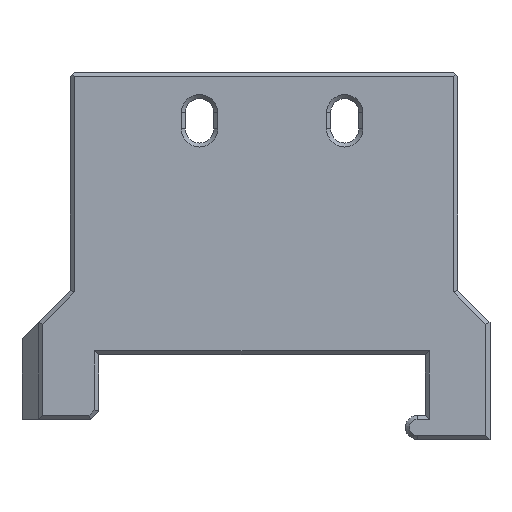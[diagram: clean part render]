
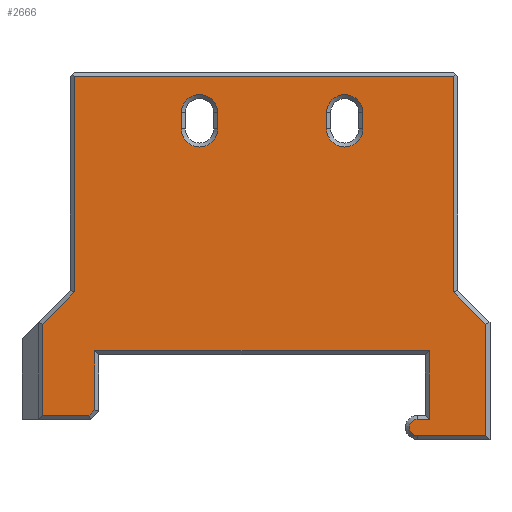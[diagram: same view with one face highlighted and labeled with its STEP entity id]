
A CAD part, front view. The second image highlights one B-rep face of the part: STEP entity #2666.
In plain terms, the highlighted planar face has unit normal (0, -1, 0).
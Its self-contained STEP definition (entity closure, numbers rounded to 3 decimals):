
#187=CARTESIAN_POINT('Vertex',(-23.5,-15.,34.5)) ;
#190=CARTESIAN_POINT('Line Origine',(0.,-15.,34.5)) ;
#194=CARTESIAN_POINT('Vertex',(23.5,-15.,34.5)) ;
#215=CARTESIAN_POINT('Line Origine',(23.5,-15.,12.25)) ;
#219=CARTESIAN_POINT('Vertex',(23.5,-15.,7.793)) ;
#252=CARTESIAN_POINT('Line Origine',(13.196,-15.,18.096)) ;
#256=CARTESIAN_POINT('Vertex',(27.5,-15.,3.793)) ;
#282=CARTESIAN_POINT('Line Origine',(27.5,-15.,12.25)) ;
#286=CARTESIAN_POINT('Vertex',(27.5,-15.,-10.)) ;
#312=CARTESIAN_POINT('Line Origine',(0.,-15.,-10.)) ;
#316=CARTESIAN_POINT('Vertex',(19.,-15.,-10.)) ;
#347=CARTESIAN_POINT('Vertex',(19.,-15.,-8.)) ;
#357=CARTESIAN_POINT('Axis2P3D Location',(19.,-15.,-9.)) ;
#381=CARTESIAN_POINT('Line Origine',(0.,-15.,-8.)) ;
#385=CARTESIAN_POINT('Vertex',(20.5,-15.,-8.)) ;
#404=CARTESIAN_POINT('Line Origine',(20.5,-15.,12.25)) ;
#408=CARTESIAN_POINT('Vertex',(20.5,-15.,0.5)) ;
#434=CARTESIAN_POINT('Line Origine',(0.,-15.,0.5)) ;
#438=CARTESIAN_POINT('Vertex',(-21.,-15.,0.5)) ;
#464=CARTESIAN_POINT('Line Origine',(-21.,-15.,12.25)) ;
#468=CARTESIAN_POINT('Vertex',(-21.,-15.,-6.793)) ;
#2119=CARTESIAN_POINT('Vertex',(7.75,-15.,28.)) ;
#2122=CARTESIAN_POINT('Axis2P3D Location',(10.,-15.,28.)) ;
#2126=CARTESIAN_POINT('Vertex',(12.25,-15.,28.)) ;
#2150=CARTESIAN_POINT('Vertex',(7.75,-15.,30.)) ;
#2153=CARTESIAN_POINT('Line Origine',(7.75,-15.,12.25)) ;
#2174=CARTESIAN_POINT('Vertex',(12.25,-15.,30.)) ;
#2177=CARTESIAN_POINT('Axis2P3D Location',(10.,-15.,30.)) ;
#2194=CARTESIAN_POINT('Line Origine',(12.25,-15.,12.25)) ;
#2215=CARTESIAN_POINT('Vertex',(-10.25,-15.,28.)) ;
#2218=CARTESIAN_POINT('Axis2P3D Location',(-8.,-15.,28.)) ;
#2222=CARTESIAN_POINT('Vertex',(-5.75,-15.,28.)) ;
#2246=CARTESIAN_POINT('Vertex',(-10.25,-15.,30.)) ;
#2249=CARTESIAN_POINT('Line Origine',(-10.25,-15.,12.25)) ;
#2270=CARTESIAN_POINT('Vertex',(-5.75,-15.,30.)) ;
#2273=CARTESIAN_POINT('Axis2P3D Location',(-8.,-15.,30.)) ;
#2290=CARTESIAN_POINT('Line Origine',(-5.75,-15.,12.25)) ;
#2307=CARTESIAN_POINT('Line Origine',(-1.957,-15.,12.25)) ;
#2311=CARTESIAN_POINT('Vertex',(-21.707,-15.,-7.5)) ;
#2560=CARTESIAN_POINT('Vertex',(-23.5,-15.,7.793)) ;
#2563=CARTESIAN_POINT('Line Origine',(-23.5,-15.,12.25)) ;
#2613=CARTESIAN_POINT('Axis2P3D Location',(0.,-15.,0.)) ;
#2618=CARTESIAN_POINT('Line Origine',(-27.5,-15.,-1.854)) ;
#2622=CARTESIAN_POINT('Vertex',(-27.5,-15.,3.793)) ;
#2624=CARTESIAN_POINT('Vertex',(-27.5,-15.,-7.5)) ;
#2627=CARTESIAN_POINT('Line Origine',(-24.604,-15.,-7.5)) ;
#2632=CARTESIAN_POINT('Line Origine',(-25.5,-15.,5.793)) ;
#191=DIRECTION('Vector Direction',(-1.,0.,0.)) ;
#216=DIRECTION('Vector Direction',(0.,0.,-1.)) ;
#253=DIRECTION('Vector Direction',(-0.707,0.,0.707)) ;
#283=DIRECTION('Vector Direction',(0.,0.,-1.)) ;
#313=DIRECTION('Vector Direction',(-1.,0.,0.)) ;
#358=DIRECTION('Axis2P3D Direction',(0.,1.,0.)) ;
#382=DIRECTION('Vector Direction',(1.,0.,0.)) ;
#405=DIRECTION('Vector Direction',(0.,0.,1.)) ;
#435=DIRECTION('Vector Direction',(-1.,0.,0.)) ;
#465=DIRECTION('Vector Direction',(0.,0.,-1.)) ;
#2123=DIRECTION('Axis2P3D Direction',(0.,1.,0.)) ;
#2154=DIRECTION('Vector Direction',(0.,0.,1.)) ;
#2178=DIRECTION('Axis2P3D Direction',(0.,1.,0.)) ;
#2195=DIRECTION('Vector Direction',(0.,0.,-1.)) ;
#2219=DIRECTION('Axis2P3D Direction',(0.,1.,0.)) ;
#2250=DIRECTION('Vector Direction',(0.,0.,1.)) ;
#2274=DIRECTION('Axis2P3D Direction',(0.,1.,0.)) ;
#2291=DIRECTION('Vector Direction',(0.,0.,-1.)) ;
#2308=DIRECTION('Vector Direction',(-0.707,0.,-0.707)) ;
#2564=DIRECTION('Vector Direction',(0.,0.,-1.)) ;
#2614=DIRECTION('Axis2P3D Direction',(0.,1.,-0.)) ;
#2615=DIRECTION('Axis2P3D XDirection',(-1.,0.,0.)) ;
#2619=DIRECTION('Vector Direction',(0.,0.,1.)) ;
#2628=DIRECTION('Vector Direction',(-1.,0.,0.)) ;
#2633=DIRECTION('Vector Direction',(0.707,0.,0.707)) ;
#359=AXIS2_PLACEMENT_3D('Circle Axis2P3D',#357,#358,$) ;
#2124=AXIS2_PLACEMENT_3D('Circle Axis2P3D',#2122,#2123,$) ;
#2179=AXIS2_PLACEMENT_3D('Circle Axis2P3D',#2177,#2178,$) ;
#2220=AXIS2_PLACEMENT_3D('Circle Axis2P3D',#2218,#2219,$) ;
#2275=AXIS2_PLACEMENT_3D('Circle Axis2P3D',#2273,#2274,$) ;
#2616=AXIS2_PLACEMENT_3D('Plane Axis2P3D',#2613,#2614,#2615) ;
#2638=ORIENTED_EDGE('',*,*,#2626,.T.) ;
#2639=ORIENTED_EDGE('',*,*,#2631,.T.) ;
#2640=ORIENTED_EDGE('',*,*,#2313,.T.) ;
#2641=ORIENTED_EDGE('',*,*,#470,.T.) ;
#2642=ORIENTED_EDGE('',*,*,#440,.T.) ;
#2643=ORIENTED_EDGE('',*,*,#410,.T.) ;
#2644=ORIENTED_EDGE('',*,*,#387,.T.) ;
#2645=ORIENTED_EDGE('',*,*,#361,.T.) ;
#2646=ORIENTED_EDGE('',*,*,#318,.T.) ;
#2647=ORIENTED_EDGE('',*,*,#288,.T.) ;
#2648=ORIENTED_EDGE('',*,*,#258,.T.) ;
#2649=ORIENTED_EDGE('',*,*,#221,.T.) ;
#2650=ORIENTED_EDGE('',*,*,#196,.T.) ;
#2651=ORIENTED_EDGE('',*,*,#2567,.T.) ;
#2652=ORIENTED_EDGE('',*,*,#2636,.T.) ;
#2655=ORIENTED_EDGE('',*,*,#2224,.F.) ;
#2656=ORIENTED_EDGE('',*,*,#2253,.F.) ;
#2657=ORIENTED_EDGE('',*,*,#2277,.F.) ;
#2658=ORIENTED_EDGE('',*,*,#2294,.F.) ;
#2661=ORIENTED_EDGE('',*,*,#2128,.F.) ;
#2662=ORIENTED_EDGE('',*,*,#2157,.F.) ;
#2663=ORIENTED_EDGE('',*,*,#2181,.F.) ;
#2664=ORIENTED_EDGE('',*,*,#2198,.F.) ;
#2659=FACE_BOUND('',#2654,.T.) ;
#2665=FACE_BOUND('',#2660,.T.) ;
#192=VECTOR('Line Direction',#191,1.) ;
#217=VECTOR('Line Direction',#216,1.) ;
#254=VECTOR('Line Direction',#253,1.) ;
#284=VECTOR('Line Direction',#283,1.) ;
#314=VECTOR('Line Direction',#313,1.) ;
#383=VECTOR('Line Direction',#382,1.) ;
#406=VECTOR('Line Direction',#405,1.) ;
#436=VECTOR('Line Direction',#435,1.) ;
#466=VECTOR('Line Direction',#465,1.) ;
#2155=VECTOR('Line Direction',#2154,1.) ;
#2196=VECTOR('Line Direction',#2195,1.) ;
#2251=VECTOR('Line Direction',#2250,1.) ;
#2292=VECTOR('Line Direction',#2291,1.) ;
#2309=VECTOR('Line Direction',#2308,1.) ;
#2565=VECTOR('Line Direction',#2564,1.) ;
#2620=VECTOR('Line Direction',#2619,1.) ;
#2629=VECTOR('Line Direction',#2628,1.) ;
#2634=VECTOR('Line Direction',#2633,1.) ;
#2666=ADVANCED_FACE('PartBody',(#2653,#2659,#2665),#2617,.F.) ;
#360=CIRCLE('generated circle',#359,1.) ;
#2125=CIRCLE('generated circle',#2124,2.25) ;
#2180=CIRCLE('generated circle',#2179,2.25) ;
#2221=CIRCLE('generated circle',#2220,2.25) ;
#2276=CIRCLE('generated circle',#2275,2.25) ;
#196=EDGE_CURVE('',#195,#188,#193,.T.) ;
#221=EDGE_CURVE('',#220,#195,#218,.F.) ;
#258=EDGE_CURVE('',#257,#220,#255,.T.) ;
#288=EDGE_CURVE('',#287,#257,#285,.F.) ;
#318=EDGE_CURVE('',#317,#287,#315,.F.) ;
#361=EDGE_CURVE('',#348,#317,#360,.F.) ;
#387=EDGE_CURVE('',#386,#348,#384,.F.) ;
#410=EDGE_CURVE('',#409,#386,#407,.F.) ;
#440=EDGE_CURVE('',#439,#409,#437,.F.) ;
#470=EDGE_CURVE('',#469,#439,#467,.F.) ;
#2128=EDGE_CURVE('',#2120,#2127,#2125,.F.) ;
#2157=EDGE_CURVE('',#2151,#2120,#2156,.F.) ;
#2181=EDGE_CURVE('',#2175,#2151,#2180,.F.) ;
#2198=EDGE_CURVE('',#2127,#2175,#2197,.F.) ;
#2224=EDGE_CURVE('',#2216,#2223,#2221,.F.) ;
#2253=EDGE_CURVE('',#2247,#2216,#2252,.F.) ;
#2277=EDGE_CURVE('',#2271,#2247,#2276,.F.) ;
#2294=EDGE_CURVE('',#2223,#2271,#2293,.F.) ;
#2313=EDGE_CURVE('',#2312,#469,#2310,.F.) ;
#2567=EDGE_CURVE('',#188,#2561,#2566,.T.) ;
#2626=EDGE_CURVE('',#2623,#2625,#2621,.F.) ;
#2631=EDGE_CURVE('',#2625,#2312,#2630,.F.) ;
#2636=EDGE_CURVE('',#2561,#2623,#2635,.F.) ;
#2637=EDGE_LOOP('',(#2638,#2639,#2640,#2641,#2642,#2643,#2644,#2645,#2646,#2647,#2648,#2649,#2650,#2651,#2652)) ;
#2654=EDGE_LOOP('',(#2655,#2656,#2657,#2658)) ;
#2660=EDGE_LOOP('',(#2661,#2662,#2663,#2664)) ;
#2653=FACE_OUTER_BOUND('',#2637,.T.) ;
#193=LINE('Line',#190,#192) ;
#218=LINE('Line',#215,#217) ;
#255=LINE('Line',#252,#254) ;
#285=LINE('Line',#282,#284) ;
#315=LINE('Line',#312,#314) ;
#384=LINE('Line',#381,#383) ;
#407=LINE('Line',#404,#406) ;
#437=LINE('Line',#434,#436) ;
#467=LINE('Line',#464,#466) ;
#2156=LINE('Line',#2153,#2155) ;
#2197=LINE('Line',#2194,#2196) ;
#2252=LINE('Line',#2249,#2251) ;
#2293=LINE('Line',#2290,#2292) ;
#2310=LINE('Line',#2307,#2309) ;
#2566=LINE('Line',#2563,#2565) ;
#2621=LINE('Line',#2618,#2620) ;
#2630=LINE('Line',#2627,#2629) ;
#2635=LINE('Line',#2632,#2634) ;
#2617=PLANE('Plane',#2616) ;
#188=VERTEX_POINT('',#187) ;
#195=VERTEX_POINT('',#194) ;
#220=VERTEX_POINT('',#219) ;
#257=VERTEX_POINT('',#256) ;
#287=VERTEX_POINT('',#286) ;
#317=VERTEX_POINT('',#316) ;
#348=VERTEX_POINT('',#347) ;
#386=VERTEX_POINT('',#385) ;
#409=VERTEX_POINT('',#408) ;
#439=VERTEX_POINT('',#438) ;
#469=VERTEX_POINT('',#468) ;
#2120=VERTEX_POINT('',#2119) ;
#2127=VERTEX_POINT('',#2126) ;
#2151=VERTEX_POINT('',#2150) ;
#2175=VERTEX_POINT('',#2174) ;
#2216=VERTEX_POINT('',#2215) ;
#2223=VERTEX_POINT('',#2222) ;
#2247=VERTEX_POINT('',#2246) ;
#2271=VERTEX_POINT('',#2270) ;
#2312=VERTEX_POINT('',#2311) ;
#2561=VERTEX_POINT('',#2560) ;
#2623=VERTEX_POINT('',#2622) ;
#2625=VERTEX_POINT('',#2624) ;
